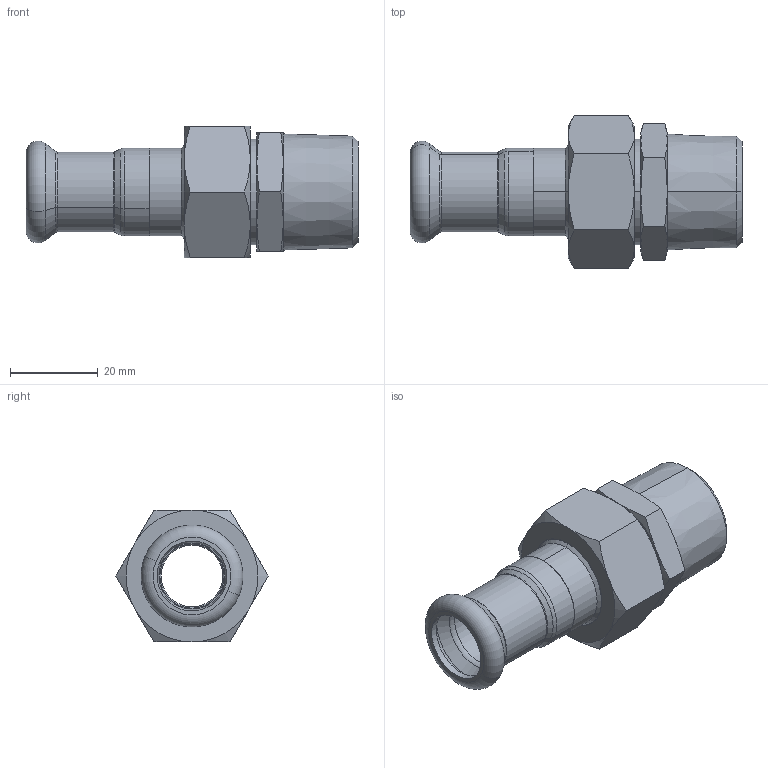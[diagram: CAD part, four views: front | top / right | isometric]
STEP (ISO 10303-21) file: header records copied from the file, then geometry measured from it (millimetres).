
FILE_DESCRIPTION (( 'STEP AP203' ), '1' );
FILE_NAME ('GDA5432.STEP', '2019-01-21T05:19:05', ( '' ), ( '' ), 'SwSTEP 2.0', 'SolidWorks 2015', '' );
FILE_SCHEMA (( 'CONFIG_CONTROL_DESIGN' ));
Length unit declared in the file: millimetre
Products named in the file (6): GDA5432; 蛌遙諉芛0.75-0.75; 0.75; T-¢ñ-01-15¡Á18; ZL-Ⅰ-01×?; 18｡ﾁ?
Assembly tree (5 placements, depth 2):
  GDA5432
    18｡ﾁ?
    0.75
    ZL-Ⅰ-01×?
    蛌遙諉芛0.75-0.75
    T-¢ñ-01-15¡Á18
Bounding box: 75.5 x 34.64 x 30 mm (x, y, z)
Volume: 18675.1 mm3; surface area: 15037 mm2
Topology: 5 solids, 5 shells, 125 faces, 258 edges, 148 vertices
Faces by surface type: cone 48, cylinder 34, plane 27, torus 16
Entity records: 4104 total; most frequent: CARTESIAN_POINT 811, DIRECTION 616, ORIENTED_EDGE 516, AXIS2_PLACEMENT_3D 273, EDGE_CURVE 258, VERTEX_POINT 148, CIRCLE 140, EDGE_LOOP 140
